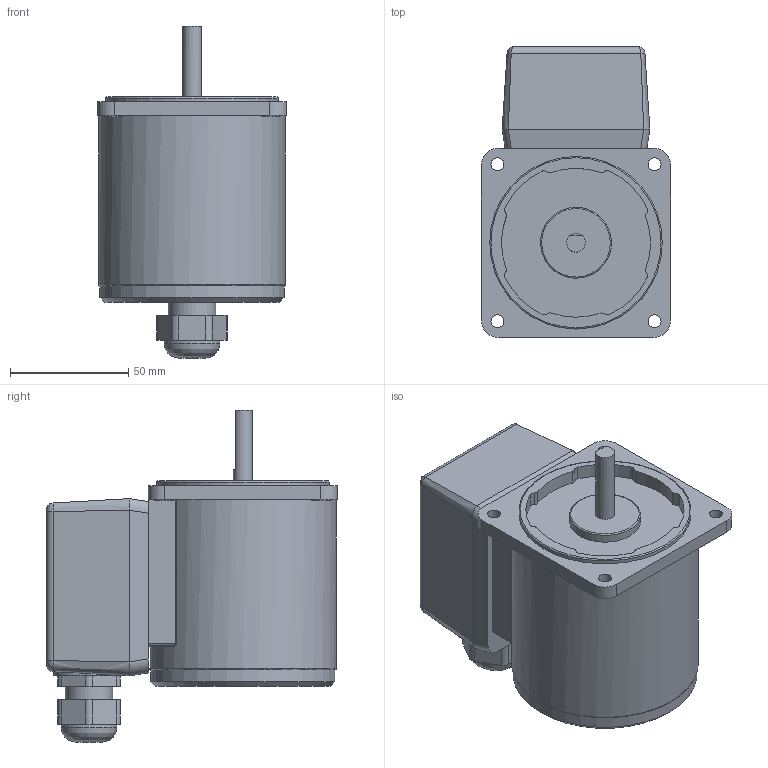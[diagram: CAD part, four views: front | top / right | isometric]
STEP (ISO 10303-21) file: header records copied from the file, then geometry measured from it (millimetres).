
FILE_DESCRIPTION((''),'2;1');
FILE_NAME('E:\2공장-도면\3D\표준형 3D(민규)\step file\K8IS25Nㅁ-T.stp','2014-11-12T17:44:22',('AHN'),(''),'Autodesk Inventor 2012','Autodesk Inventor 2012','');
FILE_SCHEMA(('CONFIG_CONTROL_DESIGN'));
Length unit declared in the file: millimetre
Products named in the file (3): K8IS25Nㅁ-T; K8IS25Nㅁ; TERMINAL BOX
Assembly tree (2 placements, depth 2):
  K8IS25Nㅁ-T
    K8IS25Nㅁ
    TERMINAL BOX
Bounding box: 80 x 123 x 140.5 mm (x, y, z)
Volume: 633052.1 mm3; surface area: 60071.4 mm2
Topology: 2 solids, 2 shells, 134 faces, 330 edges, 212 vertices
Faces by surface type: cylinder 68, plane 50, bspline 11, torus 4, cone 1
Full cylindrical faces by diameter (mm): 5.5 x4, 8 x5, 20 x1, 23.5 x1, 30 x1, 73 x1, 78 x1, 79 x1
Entity records: 4286 total; most frequent: CARTESIAN_POINT 1070, DIRECTION 685, ORIENTED_EDGE 610, EDGE_CURVE 305, AXIS2_PLACEMENT_3D 270, VERTEX_POINT 207, EDGE_LOOP 174, VECTOR 145
